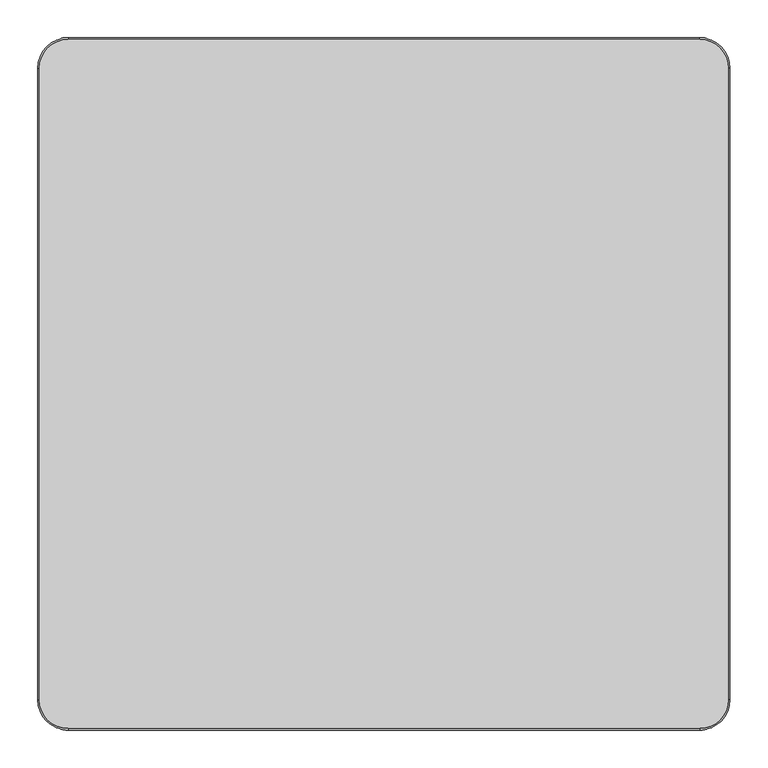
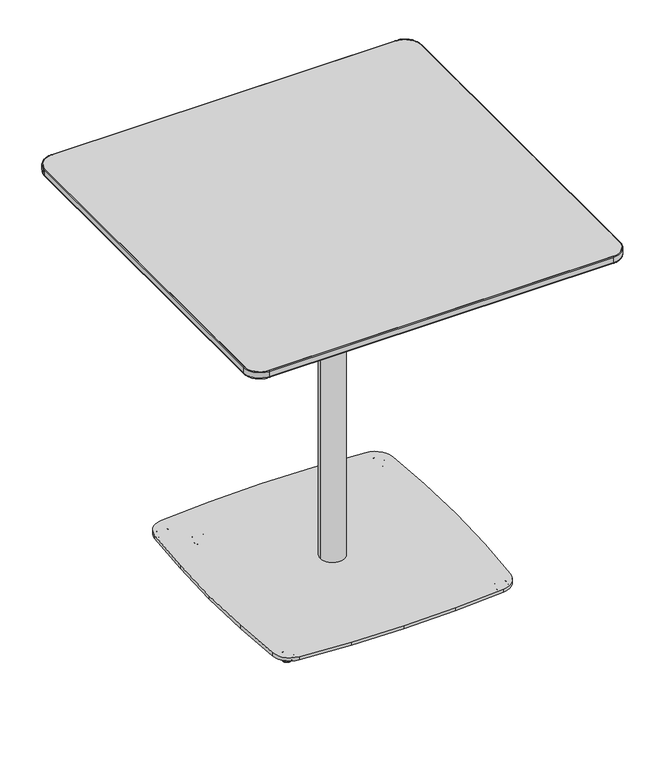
"""IFC4 building model written with IfcOpenShell, lengths in millimetres: furniture geometry, Coalesse_AM_Table_Occasional_Montara650Table_CafeHeight_Square : Counter Height - 36D x 36W."""

from ifc_helpers import new_model, si_unit, point, frame, frame_2d, origin, place, context, project, spatial, polyline, circle_curve, ellipse_curve, trimmed, segment, composite_curve, outline, extrude, source, transform, mapped, element, save
from ifc_brep_helpers import plane_surface, cylinder_surface, revolved_surface, spline_surface, advanced_brep


def furniture_87283390(model_context):
    return source(origin(), model_context, "Body", "SolidModel", [
        advanced_brep(
        [(252.3158533, 252.1363755, 0.0), (267.0011381, 266.8216603, 0.0), (259.6584957, 259.4790179, 0.0), (251.7693511, 251.5898733, 0.5718943), (267.5476403, 267.3681625, 0.5718943), (249.470252, 249.2907742, 11.2068005), (269.8467394, 269.6672616, 11.2068005), (249.8852728, 249.705795, 11.9999882), (269.4317186, 269.2522408, 11.9999882), (259.6584957, 259.4790179, 11.9999882)],
        [
            (0, 1, circle_curve(frame((259.6584957, 259.4790179, 0.0), z_axis=(0.0, 0.0, -1.0), x_axis=(0.7071067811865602, 0.7071067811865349, 0.0)), 10.3840645)),
            (1, 2),
            (2, 0),
            (1, 0, circle_curve(frame((259.6584957, 259.4790179, 0.0), z_axis=(0.0, 0.0, -1.0), x_axis=(0.7071067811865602, 0.7071067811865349, 0.0)), 10.3840645)),
            (3, 4, circle_curve(frame((259.6584957, 259.4790179, 0.5718943), z_axis=(0.0, 0.0, -1.0), x_axis=(0.7071067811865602, 0.7071067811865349, 0.0)), 11.1569353)),
            (4, 1, circle_curve(frame((267.0011381, 266.8216603, 0.8081846), z_axis=(-0.7071067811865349, 0.7071067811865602, 0.0), x_axis=(0.7071067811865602, 0.7071067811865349, 0.0)), 0.8081846)),
            (0, 3, circle_curve(frame((252.3158533, 252.1363755, 0.8081846), z_axis=(-0.7071067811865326, 0.7071067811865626, 0.0), x_axis=(-0.7071067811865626, -0.7071067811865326, 0.0)), 0.8081846)),
            (4, 3, circle_curve(frame((259.6584957, 259.4790179, 0.5718943), z_axis=(0.0, 0.0, -1.0), x_axis=(0.7071067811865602, 0.7071067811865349, 0.0)), 11.1569353)),
            (5, 6, circle_curve(frame((259.6584957, 259.4790179, 11.2068005), z_axis=(0.0, 0.0, -1.0), x_axis=(0.7071067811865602, 0.7071067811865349, 0.0)), 14.4083524)),
            (6, 4),
            (3, 5),
            (6, 5, circle_curve(frame((259.6584957, 259.4790179, 11.2068005), z_axis=(0.0, 0.0, -1.0), x_axis=(0.7071067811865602, 0.7071067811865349, 0.0)), 14.4083524)),
            (7, 8, circle_curve(frame((259.6584957, 259.4790179, 11.9999882), z_axis=(0.0, 0.0, -1.0), x_axis=(0.7071067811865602, 0.7071067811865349, 0.0)), 13.8214243)),
            (8, 6, circle_curve(frame((269.4317186, 269.2522408, 11.3862424), z_axis=(-0.7071067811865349, 0.7071067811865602, 0.0), x_axis=(0.7071067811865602, 0.7071067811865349, 0.0)), 0.6137458)),
            (5, 7, circle_curve(frame((249.8852728, 249.705795, 11.3862424), z_axis=(-0.7071067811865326, 0.7071067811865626, 0.0), x_axis=(-0.7071067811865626, -0.7071067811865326, 0.0)), 0.6137458)),
            (8, 7, circle_curve(frame((259.6584957, 259.4790179, 11.9999882), z_axis=(0.0, 0.0, -1.0), x_axis=(0.7071067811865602, 0.7071067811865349, 0.0)), 13.8214243)),
            (9, 8),
            (7, 9),
        ],
        [
            plane_surface(frame((259.6584957, 259.4790179, 0.0), z_axis=(0.0, 0.0, -1.0000000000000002), x_axis=(0.7071067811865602, 0.7071067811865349, 0.0))),
            revolved_surface(trimmed(ellipse_curve(frame((267.0011381, 266.8216603, 0.8081846), z_axis=(0.7071067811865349, -0.7071067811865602, 0.0), x_axis=(0.7071067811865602, 0.7071067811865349, 0.0)), 0.8081846, 0.8081846), [point((267.0011381, 266.8216603, 0.0))], [point((267.5476403, 267.3681625, 0.5718943))], True, "CARTESIAN"), (259.6584957, 259.4790179, 12.2086845), (0.0, 0.0, 1.0)),
            revolved_surface(polyline([(267.5476403, 267.3681625, 0.5718943), (269.8467394, 269.6672616, 11.2068005)]), (259.6584957, 259.4790179, 12.2086845), (0.0, 0.0, 1.0)),
            revolved_surface(trimmed(ellipse_curve(frame((269.4317186, 269.2522408, 11.3862424), z_axis=(0.7071067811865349, -0.7071067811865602, 0.0), x_axis=(0.7071067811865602, 0.7071067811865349, 0.0)), 0.6137458, 0.6137458), [point((269.8467394, 269.6672616, 11.2068005))], [point((269.4317186, 269.2522408, 11.9999882))], True, "CARTESIAN"), (259.6584957, 259.4790179, 12.2086845), (0.0, 0.0, 1.0)),
            plane_surface(frame((259.6584957, 259.4790179, 11.9999882), z_axis=(0.0, 0.0, 1.0000000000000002), x_axis=(0.7071067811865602, 0.7071067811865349, 0.0))),
        ],
        [
            (0, [[1, 2, 3]]),
            (0, [[4, -3, -2]]),
            (1, [[5, 6, -1, 7]]),
            (1, [[8, -7, -4, -6]]),
            (2, [[9, 10, -5, 11]]),
            (2, [[12, -11, -8, -10]]),
            (3, [[13, 14, -9, 15]]),
            (3, [[16, -15, -12, -14]]),
            (4, [[17, -13, 18]]),
            (4, [[-18, -16, -17]]),
        ],
    ),
        advanced_brep(
        [(259.8015382, -259.9111532, 0.0), (267.1441807, -267.2537956, 0.0), (252.4588958, -252.5685107, 0.0), (267.6906828, -267.8002977, 0.5718943), (251.9123937, -252.0220086, 0.5718943), (269.9897819, -270.0993968, 11.2068005), (249.6132946, -249.7229095, 11.2068005), (269.5747611, -269.684376, 11.9999882), (250.0283154, -250.1379303, 11.9999882), (259.8015382, -259.9111532, 11.9999882)],
        [
            (0, 1),
            (1, 2, circle_curve(frame((259.8015382, -259.9111532, 0.0), z_axis=(0.0, 0.0, -1.0), x_axis=(0.7071067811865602, -0.7071067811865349, 0.0)), 10.3840645)),
            (2, 0),
            (2, 1, circle_curve(frame((259.8015382, -259.9111532, 0.0), z_axis=(0.0, 0.0, -1.0), x_axis=(0.7071067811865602, -0.7071067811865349, 0.0)), 10.3840645)),
            (1, 3, circle_curve(frame((267.1441807, -267.2537956, 0.8081846), z_axis=(-0.7071067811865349, -0.7071067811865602, 0.0), x_axis=(0.7071067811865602, -0.7071067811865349, 0.0)), 0.8081846)),
            (3, 4, circle_curve(frame((259.8015382, -259.9111532, 0.5718943), z_axis=(0.0, 0.0, -1.0), x_axis=(0.7071067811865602, -0.7071067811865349, 0.0)), 11.1569353)),
            (4, 2, circle_curve(frame((252.4588958, -252.5685107, 0.8081846), z_axis=(-0.7071067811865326, -0.7071067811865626, 0.0), x_axis=(-0.7071067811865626, 0.7071067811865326, 0.0)), 0.8081846)),
            (4, 3, circle_curve(frame((259.8015382, -259.9111532, 0.5718943), z_axis=(0.0, 0.0, -1.0), x_axis=(0.7071067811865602, -0.7071067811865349, 0.0)), 11.1569353)),
            (3, 5),
            (5, 6, circle_curve(frame((259.8015382, -259.9111532, 11.2068005), z_axis=(0.0, 0.0, -1.0), x_axis=(0.7071067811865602, -0.7071067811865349, 0.0)), 14.4083524)),
            (6, 4),
            (6, 5, circle_curve(frame((259.8015382, -259.9111532, 11.2068005), z_axis=(0.0, 0.0, -1.0), x_axis=(0.7071067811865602, -0.7071067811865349, 0.0)), 14.4083524)),
            (5, 7, circle_curve(frame((269.5747611, -269.684376, 11.3862424), z_axis=(-0.7071067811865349, -0.7071067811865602, 0.0), x_axis=(0.7071067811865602, -0.7071067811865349, 0.0)), 0.6137458)),
            (7, 8, circle_curve(frame((259.8015382, -259.9111532, 11.9999882), z_axis=(0.0, 0.0, -1.0), x_axis=(0.7071067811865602, -0.7071067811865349, 0.0)), 13.8214243)),
            (8, 6, circle_curve(frame((250.0283154, -250.1379303, 11.3862424), z_axis=(-0.7071067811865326, -0.7071067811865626, 0.0), x_axis=(-0.7071067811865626, 0.7071067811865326, 0.0)), 0.6137458)),
            (8, 7, circle_curve(frame((259.8015382, -259.9111532, 11.9999882), z_axis=(0.0, 0.0, -1.0), x_axis=(0.7071067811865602, -0.7071067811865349, 0.0)), 13.8214243)),
            (7, 9),
            (9, 8),
        ],
        [
            plane_surface(frame((259.8015382, -259.9111532, 0.0), z_axis=(0.0, 0.0, -1.0000000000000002), x_axis=(0.7071067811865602, -0.7071067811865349, 0.0))),
            revolved_surface(trimmed(ellipse_curve(frame((267.1441807, -267.2537956, 0.8081846), z_axis=(0.7071067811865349, 0.7071067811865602, 0.0), x_axis=(0.7071067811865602, -0.7071067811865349, 0.0)), 0.8081846, 0.8081846), [point((267.6906828, -267.8002977, 0.5718943))], [point((267.1441807, -267.2537956, 0.0))], True, "CARTESIAN"), (259.8015382, -259.9111532, 12.2086845), (0.0, 0.0, -1.0)),
            revolved_surface(polyline([(269.9897819, -270.0993968, 11.2068005), (267.6906828, -267.8002977, 0.5718943)]), (259.8015382, -259.9111532, 12.2086845), (0.0, 0.0, -1.0)),
            revolved_surface(trimmed(ellipse_curve(frame((269.5747611, -269.684376, 11.3862424), z_axis=(0.7071067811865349, 0.7071067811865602, 0.0), x_axis=(0.7071067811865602, -0.7071067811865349, 0.0)), 0.6137458, 0.6137458), [point((269.5747611, -269.684376, 11.9999882))], [point((269.9897819, -270.0993968, 11.2068005))], True, "CARTESIAN"), (259.8015382, -259.9111532, 12.2086845), (0.0, 0.0, -1.0)),
            plane_surface(frame((259.8015382, -259.9111532, 11.9999882), z_axis=(0.0, 0.0, 1.0000000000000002), x_axis=(0.7071067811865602, -0.7071067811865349, 0.0))),
        ],
        [
            (0, [[1, 2, 3]]),
            (0, [[-3, 4, -1]]),
            (1, [[-2, 5, 6, 7]]),
            (1, [[-4, -7, 8, -5]]),
            (2, [[-6, 9, 10, 11]]),
            (2, [[-8, -11, 12, -9]]),
            (3, [[-10, 13, 14, 15]]),
            (3, [[-12, -15, 16, -13]]),
            (4, [[-14, 17, 18]]),
            (4, [[-16, -18, -17]]),
        ],
    ),
        extrude(outline(composite_curve([segment(trimmed(circle_curve(frame_2d((-243.9942116, 243.996709)), 44.45), [point((-288.3392595, 247.0494508))], [point((-247.0469534, 288.3417568))], False, "CARTESIAN"), True, "CONTINUOUS"), segment(polyline([(-247.0469534, 288.3417568), (-126.1187996, 296.6665291), (-0.0009163, 300.0012093), (126.116967, 296.6665291), (247.0474572, 288.341596)]), True, "CONTINUOUS"), segment(trimmed(circle_curve(frame_2d((243.9947155, 243.9965482)), 44.45), [point((247.0474572, 288.341596))], [point((288.3397633, 247.0492899))], False, "CARTESIAN"), True, "CONTINUOUS"), segment(polyline([(288.3397633, 247.0492899), (296.6646964, 126.1187996), (299.9993766, 0.0009163), (296.6646964, -126.116967), (288.3399178, -247.0452123)]), True, "CONTINUOUS"), segment(trimmed(circle_curve(frame_2d((243.99487, -243.9924705)), 44.45), [point((288.3399178, -247.0452123))], [point((247.0484272, -288.3374622))], False, "CARTESIAN"), True, "CONTINUOUS"), segment(polyline([(247.0484272, -288.3374622), (126.116967, -296.6646964), (-0.0009163, -299.9993766), (-126.1187996, -296.6646964), (-247.0479234, -288.3376231)]), True, "CONTINUOUS"), segment(trimmed(circle_curve(frame_2d((-243.9943662, -243.9926314)), 44.45), [point((-247.0479234, -288.3376231))], [point((-288.339414, -247.0453732))], False, "CARTESIAN"), True, "CONTINUOUS"), segment(polyline([(-288.339414, -247.0453732), (-296.6642037, -126.116967), (-299.9988839, 0.0009163), (-296.6642037, 126.1187996), (-288.3392595, 247.0494508)]), True, "CONTINUOUS")], self_intersect=False)), frame((0.0, 0.0, 11.9999882), z_axis=(0.0, 0.0, 1.0), x_axis=(1.0, 0.0, 0.0)), (0.0, 0.0, 1.0), 8.0000083),
        advanced_brep(
        [(-259.8122576, 259.6204684, 0.0), (-267.1549, 266.9631108, 0.0), (-252.4696151, 252.277826, 0.0), (-267.7014021, 267.509613, 0.5718943), (-251.923113, 251.7313238, 0.5718943), (-270.0005012, 269.8087121, 11.2068005), (-249.6240139, 249.4322247, 11.2068005), (-269.5854804, 269.3936913, 11.9999882), (-250.0390347, 249.8472455, 11.9999882), (-259.8122576, 259.6204684, 11.9999882)],
        [
            (0, 1),
            (1, 2, circle_curve(frame((-259.8122576, 259.6204684, 0.0), z_axis=(0.0, 0.0, -1.0), x_axis=(-0.7071067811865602, 0.7071067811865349, 0.0)), 10.3840645)),
            (2, 0),
            (2, 1, circle_curve(frame((-259.8122576, 259.6204684, 0.0), z_axis=(0.0, 0.0, -1.0), x_axis=(-0.7071067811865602, 0.7071067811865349, 0.0)), 10.3840645)),
            (1, 3, circle_curve(frame((-267.1549, 266.9631108, 0.8081846), z_axis=(0.7071067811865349, 0.7071067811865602, 0.0), x_axis=(-0.7071067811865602, 0.7071067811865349, 0.0)), 0.8081846)),
            (3, 4, circle_curve(frame((-259.8122576, 259.6204684, 0.5718943), z_axis=(0.0, 0.0, -1.0), x_axis=(-0.7071067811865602, 0.7071067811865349, 0.0)), 11.1569353)),
            (4, 2, circle_curve(frame((-252.4696151, 252.277826, 0.8081846), z_axis=(0.7071067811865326, 0.7071067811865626, 0.0), x_axis=(0.7071067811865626, -0.7071067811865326, 0.0)), 0.8081846)),
            (4, 3, circle_curve(frame((-259.8122576, 259.6204684, 0.5718943), z_axis=(0.0, 0.0, -1.0), x_axis=(-0.7071067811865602, 0.7071067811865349, 0.0)), 11.1569353)),
            (3, 5),
            (5, 6, circle_curve(frame((-259.8122576, 259.6204684, 11.2068005), z_axis=(0.0, 0.0, -1.0), x_axis=(-0.7071067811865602, 0.7071067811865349, 0.0)), 14.4083524)),
            (6, 4),
            (6, 5, circle_curve(frame((-259.8122576, 259.6204684, 11.2068005), z_axis=(0.0, 0.0, -1.0), x_axis=(-0.7071067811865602, 0.7071067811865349, 0.0)), 14.4083524)),
            (5, 7, circle_curve(frame((-269.5854804, 269.3936913, 11.3862424), z_axis=(0.7071067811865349, 0.7071067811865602, 0.0), x_axis=(-0.7071067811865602, 0.7071067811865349, 0.0)), 0.6137458)),
            (7, 8, circle_curve(frame((-259.8122576, 259.6204684, 11.9999882), z_axis=(0.0, 0.0, -1.0), x_axis=(-0.7071067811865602, 0.7071067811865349, 0.0)), 13.8214243)),
            (8, 6, circle_curve(frame((-250.0390347, 249.8472455, 11.3862424), z_axis=(0.7071067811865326, 0.7071067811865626, 0.0), x_axis=(0.7071067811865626, -0.7071067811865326, 0.0)), 0.6137458)),
            (8, 7, circle_curve(frame((-259.8122576, 259.6204684, 11.9999882), z_axis=(0.0, 0.0, -1.0), x_axis=(-0.7071067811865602, 0.7071067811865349, 0.0)), 13.8214243)),
            (7, 9),
            (9, 8),
        ],
        [
            plane_surface(frame((-259.8122576, 259.6204684, 0.0), z_axis=(0.0, 0.0, -1.0000000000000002), x_axis=(-0.7071067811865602, 0.7071067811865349, 0.0))),
            revolved_surface(trimmed(ellipse_curve(frame((-267.1549, 266.9631108, 0.8081846), z_axis=(-0.7071067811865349, -0.7071067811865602, 0.0), x_axis=(-0.7071067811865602, 0.7071067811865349, 0.0)), 0.8081846, 0.8081846), [point((-267.7014021, 267.509613, 0.5718943))], [point((-267.1549, 266.9631108, 0.0))], True, "CARTESIAN"), (-259.8122576, 259.6204684, 12.2086845), (0.0, 0.0, -1.0)),
            revolved_surface(polyline([(-270.0005012, 269.8087121, 11.2068005), (-267.7014021, 267.509613, 0.5718943)]), (-259.8122576, 259.6204684, 12.2086845), (0.0, 0.0, -1.0)),
            revolved_surface(trimmed(ellipse_curve(frame((-269.5854804, 269.3936913, 11.3862424), z_axis=(-0.7071067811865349, -0.7071067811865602, 0.0), x_axis=(-0.7071067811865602, 0.7071067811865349, 0.0)), 0.6137458, 0.6137458), [point((-269.5854804, 269.3936913, 11.9999882))], [point((-270.0005012, 269.8087121, 11.2068005))], True, "CARTESIAN"), (-259.8122576, 259.6204684, 12.2086845), (0.0, 0.0, -1.0)),
            plane_surface(frame((-259.8122576, 259.6204684, 11.9999882), z_axis=(0.0, 0.0, 1.0000000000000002), x_axis=(-0.7071067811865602, 0.7071067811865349, 0.0))),
        ],
        [
            (0, [[1, 2, 3]]),
            (0, [[-3, 4, -1]]),
            (1, [[-2, 5, 6, 7]]),
            (1, [[-4, -7, 8, -5]]),
            (2, [[-6, 9, 10, 11]]),
            (2, [[-8, -11, 12, -9]]),
            (3, [[-10, 13, 14, 15]]),
            (3, [[-12, -15, 16, -13]]),
            (4, [[-14, 17, 18]]),
            (4, [[-16, -18, -17]]),
        ],
    ),
        advanced_brep(
        [(-252.8175248, -252.4969322, 0.0), (-267.5028096, -267.182217, 0.0), (-260.1601672, -259.8395746, 0.0), (-252.2710226, -251.95043, 0.5718943), (-268.0493118, -267.7287192, 0.5718943), (-249.9719235, -249.6513309, 11.2068005), (-270.3484109, -270.0278183, 11.2068005), (-250.3869443, -250.0663517, 11.9999882), (-269.9333901, -269.6127975, 11.9999882), (-260.1601672, -259.8395746, 11.9999882)],
        [
            (0, 1, circle_curve(frame((-260.1601672, -259.8395746, 0.0), z_axis=(0.0, 0.0, -1.0), x_axis=(-0.7071067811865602, -0.7071067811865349, 0.0)), 10.3840645)),
            (1, 2),
            (2, 0),
            (1, 0, circle_curve(frame((-260.1601672, -259.8395746, 0.0), z_axis=(0.0, 0.0, -1.0), x_axis=(-0.7071067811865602, -0.7071067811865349, 0.0)), 10.3840645)),
            (3, 4, circle_curve(frame((-260.1601672, -259.8395746, 0.5718943), z_axis=(0.0, 0.0, -1.0), x_axis=(-0.7071067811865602, -0.7071067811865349, 0.0)), 11.1569353)),
            (4, 1, circle_curve(frame((-267.5028096, -267.182217, 0.8081846), z_axis=(0.7071067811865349, -0.7071067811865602, 0.0), x_axis=(-0.7071067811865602, -0.7071067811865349, 0.0)), 0.8081846)),
            (0, 3, circle_curve(frame((-252.8175248, -252.4969322, 0.8081846), z_axis=(0.7071067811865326, -0.7071067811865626, 0.0), x_axis=(0.7071067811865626, 0.7071067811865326, 0.0)), 0.8081846)),
            (4, 3, circle_curve(frame((-260.1601672, -259.8395746, 0.5718943), z_axis=(0.0, 0.0, -1.0), x_axis=(-0.7071067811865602, -0.7071067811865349, 0.0)), 11.1569353)),
            (5, 6, circle_curve(frame((-260.1601672, -259.8395746, 11.2068005), z_axis=(0.0, 0.0, -1.0), x_axis=(-0.7071067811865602, -0.7071067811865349, 0.0)), 14.4083524)),
            (6, 4),
            (3, 5),
            (6, 5, circle_curve(frame((-260.1601672, -259.8395746, 11.2068005), z_axis=(0.0, 0.0, -1.0), x_axis=(-0.7071067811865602, -0.7071067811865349, 0.0)), 14.4083524)),
            (7, 8, circle_curve(frame((-260.1601672, -259.8395746, 11.9999882), z_axis=(0.0, 0.0, -1.0), x_axis=(-0.7071067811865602, -0.7071067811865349, 0.0)), 13.8214243)),
            (8, 6, circle_curve(frame((-269.9333901, -269.6127975, 11.3862424), z_axis=(0.7071067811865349, -0.7071067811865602, 0.0), x_axis=(-0.7071067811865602, -0.7071067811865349, 0.0)), 0.6137458)),
            (5, 7, circle_curve(frame((-250.3869443, -250.0663517, 11.3862424), z_axis=(0.7071067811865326, -0.7071067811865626, 0.0), x_axis=(0.7071067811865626, 0.7071067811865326, 0.0)), 0.6137458)),
            (8, 7, circle_curve(frame((-260.1601672, -259.8395746, 11.9999882), z_axis=(0.0, 0.0, -1.0), x_axis=(-0.7071067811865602, -0.7071067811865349, 0.0)), 13.8214243)),
            (9, 8),
            (7, 9),
        ],
        [
            plane_surface(frame((-260.1601672, -259.8395746, 0.0), z_axis=(0.0, 0.0, -1.0000000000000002), x_axis=(-0.7071067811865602, -0.7071067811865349, 0.0))),
            revolved_surface(trimmed(ellipse_curve(frame((-267.5028096, -267.182217, 0.8081846), z_axis=(-0.7071067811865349, 0.7071067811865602, 0.0), x_axis=(-0.7071067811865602, -0.7071067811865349, 0.0)), 0.8081846, 0.8081846), [point((-267.5028096, -267.182217, 0.0))], [point((-268.0493118, -267.7287192, 0.5718943))], True, "CARTESIAN"), (-260.1601672, -259.8395746, 12.2086845), (0.0, 0.0, 1.0)),
            revolved_surface(polyline([(-268.0493118, -267.7287192, 0.5718943), (-270.3484109, -270.0278183, 11.2068005)]), (-260.1601672, -259.8395746, 12.2086845), (0.0, 0.0, 1.0)),
            revolved_surface(trimmed(ellipse_curve(frame((-269.9333901, -269.6127975, 11.3862424), z_axis=(-0.7071067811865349, 0.7071067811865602, 0.0), x_axis=(-0.7071067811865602, -0.7071067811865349, 0.0)), 0.6137458, 0.6137458), [point((-270.3484109, -270.0278183, 11.2068005))], [point((-269.9333901, -269.6127975, 11.9999882))], True, "CARTESIAN"), (-260.1601672, -259.8395746, 12.2086845), (0.0, 0.0, 1.0)),
            plane_surface(frame((-260.1601672, -259.8395746, 11.9999882), z_axis=(0.0, 0.0, 1.0000000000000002), x_axis=(-0.7071067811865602, -0.7071067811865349, 0.0))),
        ],
        [
            (0, [[1, 2, 3]]),
            (0, [[4, -3, -2]]),
            (1, [[5, 6, -1, 7]]),
            (1, [[8, -7, -4, -6]]),
            (2, [[9, 10, -5, 11]]),
            (2, [[12, -11, -8, -10]]),
            (3, [[13, 14, -9, 15]]),
            (3, [[16, -15, -12, -14]]),
            (4, [[17, -13, 18]]),
            (4, [[-18, -16, -17]]),
        ],
    ),
        advanced_brep(
        [(-204.8873489, 205.5044028, 0.0), (-212.2299913, 212.8470453, 0.0), (-197.5447065, 198.1617604, 0.0), (-212.7764935, 213.3935474, 0.5718943), (-196.9982043, 197.6152583, 0.5718943), (-215.0755926, 215.6926465, 11.2068005), (-194.6991052, 195.3161592, 11.2068005), (-214.6605718, 215.2776257, 11.9999882), (-195.114126, 195.73118, 11.9999882), (-204.8873489, 205.5044028, 11.9999882)],
        [
            (0, 1),
            (1, 2, circle_curve(frame((-204.8873489, 205.5044028, 0.0), z_axis=(0.0, 0.0, -1.0), x_axis=(-0.7071067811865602, 0.7071067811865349, 0.0)), 10.3840645)),
            (2, 0),
            (2, 1, circle_curve(frame((-204.8873489, 205.5044028, 0.0), z_axis=(0.0, 0.0, -1.0), x_axis=(-0.7071067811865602, 0.7071067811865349, 0.0)), 10.3840645)),
            (1, 3, circle_curve(frame((-212.2299913, 212.8470453, 0.8081846), z_axis=(0.7071067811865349, 0.7071067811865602, 0.0), x_axis=(-0.7071067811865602, 0.7071067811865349, 0.0)), 0.8081846)),
            (3, 4, circle_curve(frame((-204.8873489, 205.5044028, 0.5718943), z_axis=(0.0, 0.0, -1.0), x_axis=(-0.7071067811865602, 0.7071067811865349, 0.0)), 11.1569353)),
            (4, 2, circle_curve(frame((-197.5447065, 198.1617604, 0.8081846), z_axis=(0.7071067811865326, 0.7071067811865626, 0.0), x_axis=(0.7071067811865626, -0.7071067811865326, 0.0)), 0.8081846)),
            (4, 3, circle_curve(frame((-204.8873489, 205.5044028, 0.5718943), z_axis=(0.0, 0.0, -1.0), x_axis=(-0.7071067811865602, 0.7071067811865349, 0.0)), 11.1569353)),
            (3, 5),
            (5, 6, circle_curve(frame((-204.8873489, 205.5044028, 11.2068005), z_axis=(0.0, 0.0, -1.0), x_axis=(-0.7071067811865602, 0.7071067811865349, 0.0)), 14.4083524)),
            (6, 4),
            (6, 5, circle_curve(frame((-204.8873489, 205.5044028, 11.2068005), z_axis=(0.0, 0.0, -1.0), x_axis=(-0.7071067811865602, 0.7071067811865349, 0.0)), 14.4083524)),
            (5, 7, circle_curve(frame((-214.6605718, 215.2776257, 11.3862424), z_axis=(0.7071067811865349, 0.7071067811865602, 0.0), x_axis=(-0.7071067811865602, 0.7071067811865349, 0.0)), 0.6137458)),
            (7, 8, circle_curve(frame((-204.8873489, 205.5044028, 11.9999882), z_axis=(0.0, 0.0, -1.0), x_axis=(-0.7071067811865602, 0.7071067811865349, 0.0)), 13.8214243)),
            (8, 6, circle_curve(frame((-195.114126, 195.73118, 11.3862424), z_axis=(0.7071067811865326, 0.7071067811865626, 0.0), x_axis=(0.7071067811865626, -0.7071067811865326, 0.0)), 0.6137458)),
            (8, 7, circle_curve(frame((-204.8873489, 205.5044028, 11.9999882), z_axis=(0.0, 0.0, -1.0), x_axis=(-0.7071067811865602, 0.7071067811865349, 0.0)), 13.8214243)),
            (7, 9),
            (9, 8),
        ],
        [
            plane_surface(frame((-204.8873489, 205.5044028, 0.0), z_axis=(0.0, 0.0, -1.0000000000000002), x_axis=(-0.7071067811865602, 0.7071067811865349, 0.0))),
            revolved_surface(trimmed(ellipse_curve(frame((-212.2299913, 212.8470453, 0.8081846), z_axis=(-0.7071067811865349, -0.7071067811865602, 0.0), x_axis=(-0.7071067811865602, 0.7071067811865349, 0.0)), 0.8081846, 0.8081846), [point((-212.7764935, 213.3935474, 0.5718943))], [point((-212.2299913, 212.8470453, 0.0))], True, "CARTESIAN"), (-204.8873489, 205.5044028, 12.2086845), (0.0, 0.0, -1.0)),
            revolved_surface(polyline([(-215.0755926, 215.6926465, 11.2068005), (-212.7764935, 213.3935474, 0.5718943)]), (-204.8873489, 205.5044028, 12.2086845), (0.0, 0.0, -1.0)),
            revolved_surface(trimmed(ellipse_curve(frame((-214.6605718, 215.2776257, 11.3862424), z_axis=(-0.7071067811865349, -0.7071067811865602, 0.0), x_axis=(-0.7071067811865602, 0.7071067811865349, 0.0)), 0.6137458, 0.6137458), [point((-214.6605718, 215.2776257, 11.9999882))], [point((-215.0755926, 215.6926465, 11.2068005))], True, "CARTESIAN"), (-204.8873489, 205.5044028, 12.2086845), (0.0, 0.0, -1.0)),
            plane_surface(frame((-204.8873489, 205.5044028, 11.9999882), z_axis=(0.0, 0.0, 1.0000000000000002), x_axis=(-0.7071067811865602, 0.7071067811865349, 0.0))),
        ],
        [
            (0, [[1, 2, 3]]),
            (0, [[-3, 4, -1]]),
            (1, [[-2, 5, 6, 7]]),
            (1, [[-4, -7, 8, -5]]),
            (2, [[-6, 9, 10, 11]]),
            (2, [[-8, -11, 12, -9]]),
            (3, [[-10, 13, 14, 15]]),
            (3, [[-12, -15, 16, -13]]),
            (4, [[-14, 17, 18]]),
            (4, [[-16, -18, -17]]),
        ],
    ),
        advanced_brep(
        [(392.2626362, 392.2635082, 884.430027), (392.2626362, -392.2635082, 884.430027), (-392.2626362, -392.2635082, 884.430027), (-392.2626362, 392.2635082, 884.430027), (416.988625, 455.168, 896.695891), (-416.988625, 455.168, 896.695891), (-455.088625, 417.068, 896.695891), (-455.088625, -417.068, 896.695891), (-416.988625, -455.168, 896.695891), (416.988625, -455.168, 896.695891), (455.088625, -417.068, 896.695891), (455.088625, 417.068, 896.695891)],
        [
            (0, 1),
            (1, 2),
            (2, 3),
            (3, 0),
            (4, 5),
            (5, 6, circle_curve(frame((-416.988625, 417.068, 896.695891), z_axis=(0.0, 0.0, 1.0), x_axis=(1.0, 0.0, 0.0)), 38.1)),
            (6, 7),
            (7, 8, circle_curve(frame((-416.988625, -417.068, 896.695891), z_axis=(0.0, 0.0, 1.0), x_axis=(1.0, 0.0, 0.0)), 38.1)),
            (8, 9),
            (9, 10, circle_curve(frame((416.988625, -417.068, 896.695891), z_axis=(0.0, 0.0, 1.0), x_axis=(1.0, 0.0, 0.0)), 38.1)),
            (10, 11),
            (11, 4, circle_curve(frame((416.988625, 417.068, 896.695891), z_axis=(0.0, 0.0, 1.0), x_axis=(1.0, 0.0, 0.0)), 38.1)),
            (11, 0),
            (0, 4),
            (10, 1),
            (9, 1),
            (8, 2),
            (7, 2),
            (6, 3),
            (5, 3),
        ],
        [
            plane_surface(frame((0.0, 0.0, 884.430027), z_axis=(0.0, 0.0, -1.0), x_axis=(-1.0, 0.0, 0.0))),
            plane_surface(frame((0.0, 0.0, 896.695891), z_axis=(0.0, 0.0, 1.0), x_axis=(-1.0, 0.0, 0.0))),
            spline_surface(2, 1, [[(416.988625, 455.168, 896.695891), (392.2626362, 392.2635082, 884.430027)], [(455.08862500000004, 455.16800000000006, 896.695891), (392.2626362, 392.2635082, 884.430027)], [(455.088625, 417.068, 896.695891), (392.2626362, 392.2635082, 884.430027)]], [3, 3], [2, 2], [0.0, 1.0], [0.0, 1.0], weights=[[1.0, 1.0], [0.707106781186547, 0.707106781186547], [1.0, 1.0]]),
            plane_surface(frame((455.088625, 0.0, 896.695891), z_axis=(0.19161772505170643, 0.0, -0.9814696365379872), x_axis=(0.0, -1.0, 0.0))),
            spline_surface(2, 1, [[(455.088625, -417.068, 896.695891), (392.2626362, -392.2635082, 884.430027)], [(455.0886249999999, -455.16799999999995, 896.695891), (392.2626362, -392.2635082, 884.430027)], [(416.988625, -455.168, 896.695891), (392.2626362, -392.2635082, 884.430027)]], [3, 3], [2, 2], [0.0, 1.0], [0.0, 1.0], weights=[[1.0, 1.0], [0.7071067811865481, 0.7071067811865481], [1.0, 1.0]]),
            plane_surface(frame((0.0, -455.168, 896.695891), z_axis=(0.0, -0.19138735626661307, -0.9815145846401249), x_axis=(-1.0, 0.0, 0.0))),
            spline_surface(2, 1, [[(-416.988625, -455.168, 896.695891), (-392.2626362, -392.2635082, 884.430027)], [(-455.08862500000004, -455.16800000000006, 896.695891), (-392.2626362, -392.2635082, 884.430027)], [(-455.088625, -417.068, 896.695891), (-392.2626362, -392.2635082, 884.430027)]], [3, 3], [2, 2], [0.0, 1.0], [0.0, 1.0], weights=[[1.0, 1.0], [0.707106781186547, 0.707106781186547], [1.0, 1.0]]),
            plane_surface(frame((-455.088625, 0.0, 896.695891), z_axis=(-0.19161772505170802, 0.0, -0.9814696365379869), x_axis=(0.0, 1.0, 0.0))),
            spline_surface(2, 1, [[(-455.088625, 417.068, 896.695891), (-392.2626362, 392.2635082, 884.430027)], [(-455.0886249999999, 455.16799999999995, 896.695891), (-392.2626362, 392.2635082, 884.430027)], [(-416.988625, 455.168, 896.695891), (-392.2626362, 392.2635082, 884.430027)]], [3, 3], [2, 2], [0.0, 1.0], [0.0, 1.0], weights=[[1.0, 1.0], [0.7071067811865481, 0.7071067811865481], [1.0, 1.0]]),
            plane_surface(frame((0.0, 455.168, 896.695891), z_axis=(0.0, 0.19138735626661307, -0.9815145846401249), x_axis=(1.0, 0.0, 0.0))),
        ],
        [
            (0, [[1, 2, 3, 4]]),
            (1, [[5, 6, 7, 8, 9, 10, 11, 12]]),
            (2, [[-12, 13, 14]]),
            (3, [[-11, 15, -1, -13]]),
            (4, [[-10, 16, -15]]),
            (5, [[-9, 17, -2, -16]]),
            (6, [[-8, 18, -17]]),
            (7, [[-7, 19, -3, -18]]),
            (8, [[-6, 20, -19]]),
            (9, [[-5, -14, -4, -20]]),
        ],
    ),
        extrude(outline(composite_curve([segment(trimmed(circle_curve(frame_2d((416.988625, 417.068)), 38.1), [point((416.988625, 455.168))], [point((455.088625, 417.068))], False, "CARTESIAN"), True, "CONTINUOUS"), segment(polyline([(455.088625, 417.068), (455.088625, -417.068)]), True, "CONTINUOUS"), segment(trimmed(circle_curve(frame_2d((416.988625, -417.068)), 38.1), [point((455.088625, -417.068))], [point((416.988625, -455.168))], False, "CARTESIAN"), True, "CONTINUOUS"), segment(polyline([(416.988625, -455.168), (-416.988625, -455.168)]), True, "CONTINUOUS"), segment(trimmed(circle_curve(frame_2d((-416.988625, -417.068)), 38.1), [point((-416.988625, -455.168))], [point((-455.088625, -417.068))], False, "CARTESIAN"), True, "CONTINUOUS"), segment(polyline([(-455.088625, -417.068), (-455.088625, 417.068)]), True, "CONTINUOUS"), segment(trimmed(circle_curve(frame_2d((-416.988625, 417.068)), 38.1), [point((-455.088625, 417.068))], [point((-416.988625, 455.168))], False, "CARTESIAN"), True, "CONTINUOUS"), segment(polyline([(-416.988625, 455.168), (416.988625, 455.168)]), True, "CONTINUOUS")], self_intersect=False)), frame((0.0, 0.0, 896.695891), z_axis=(0.0, 0.0, 1.0), x_axis=(1.0, 0.0, 0.0)), (0.0, 0.0, 1.0), 17.704109),
        advanced_brep(
        [(-457.1644915, 417.068, 898.6278467), (-416.988625, 457.2438665, 898.6278467), (-416.988625, 455.168, 896.695891), (-455.088625, 417.068, 896.695891), (-457.1644915, 417.068, 912.3999283), (-416.988625, 457.2438665, 912.3999283), (-455.088625, 417.068, 914.4), (-416.988625, 455.168, 914.4), (-455.088625, -417.068, 896.695891), (-457.1644915, -417.068, 898.6278467), (-457.1644915, -417.068, 912.3999283), (-455.088625, -417.068, 914.4), (-416.988625, -457.2438665, 898.6278467), (-416.988625, -455.168, 896.695891), (-416.988625, -457.2438665, 912.3999283), (-416.988625, -455.168, 914.4), (416.988625, -455.168, 896.695891), (416.988625, -457.2438665, 898.6278467), (416.988625, -457.2438665, 912.3999283), (416.988625, -455.168, 914.4), (457.1644915, -417.068, 898.6278467), (455.088625, -417.068, 896.695891), (457.1644915, -417.068, 912.3999283), (455.088625, -417.068, 914.4), (455.088625, 417.068, 896.695891), (457.1644915, 417.068, 898.6278467), (457.1644915, 417.068, 912.3999283), (455.088625, 417.068, 914.4), (416.988625, 457.2438665, 898.6278467), (416.988625, 455.168, 896.695891), (416.988625, 457.2438665, 912.3999283), (416.988625, 455.168, 914.4)],
        [
            (0, 1, circle_curve(frame((-416.988625, 417.068, 898.6278467), z_axis=(0.0, 0.0, -1.0), x_axis=(0.0, 1.0, 0.0)), 40.1758665)),
            (1, 2, circle_curve(frame((-416.988625, 455.3069224, 898.6278467), z_axis=(-1.0, 0.0, 0.0), x_axis=(0.0, -1.0, 0.0)), 1.9369441)),
            (2, 3, circle_curve(frame((-416.988625, 417.068, 896.695891), z_axis=(0.0, 0.0, 1.0), x_axis=(0.0, 1.0, 0.0)), 38.1)),
            (3, 0, circle_curve(frame((-455.2275474, 417.068, 898.6278467), z_axis=(0.0, 1.0, 0.0), x_axis=(1.0, 0.0, 0.0)), 1.9369441)),
            (4, 5, circle_curve(frame((-416.988625, 417.068, 912.3999283), z_axis=(0.0, 0.0, -1.0), x_axis=(0.0, 1.0, 0.0)), 40.1758665)),
            (5, 1),
            (0, 4),
            (6, 7, circle_curve(frame((-416.988625, 417.068, 914.4), z_axis=(0.0, 0.0, -1.0), x_axis=(0.0, 1.0, 0.0)), 38.1)),
            (7, 5, circle_curve(frame((-416.988625, 455.2424111, 912.3999283), z_axis=(-1.0, 0.0, 0.0), x_axis=(0.0, -1.0, 0.0)), 2.0014554)),
            (4, 6, circle_curve(frame((-455.1630361, 417.068, 912.3999283), z_axis=(0.0, 1.0, 0.0), x_axis=(1.0, 0.0, 0.0)), 2.0014554)),
            (2, 7),
            (6, 3),
            (3, 8),
            (8, 9, circle_curve(frame((-455.2275474, -417.068, 898.6278467), z_axis=(0.0, 1.0, 0.0), x_axis=(1.0, 0.0, 0.0)), 1.9369441)),
            (9, 0),
            (9, 10),
            (10, 4),
            (10, 11, circle_curve(frame((-455.1630361, -417.068, 912.3999283), z_axis=(0.0, 1.0, 0.0), x_axis=(1.0, 0.0, 0.0)), 2.0014554)),
            (11, 6),
            (11, 8),
            (12, 9, circle_curve(frame((-416.988625, -417.068, 898.6278467), z_axis=(0.0, 0.0, -1.0), x_axis=(-1.0, 0.0, 0.0)), 40.1758665)),
            (8, 13, circle_curve(frame((-416.988625, -417.068, 896.695891), z_axis=(0.0, 0.0, 1.0), x_axis=(-1.0, 0.0, 0.0)), 38.1)),
            (13, 12, circle_curve(frame((-416.988625, -455.3069224, 898.6278467), z_axis=(-1.0, 0.0, 0.0), x_axis=(0.0, 1.0, 0.0)), 1.9369441)),
            (14, 10, circle_curve(frame((-416.988625, -417.068, 912.3999283), z_axis=(0.0, 0.0, -1.0), x_axis=(-1.0, 0.0, 0.0)), 40.1758665)),
            (12, 14),
            (15, 11, circle_curve(frame((-416.988625, -417.068, 914.4), z_axis=(0.0, 0.0, -1.0), x_axis=(-1.0, 0.0, 0.0)), 38.1)),
            (14, 15, circle_curve(frame((-416.988625, -455.2424111, 912.3999283), z_axis=(-1.0, 0.0, 0.0), x_axis=(0.0, 1.0, 0.0)), 2.0014554)),
            (15, 13),
            (13, 16),
            (16, 17, circle_curve(frame((416.988625, -455.3069224, 898.6278467), z_axis=(-1.0, 0.0, 0.0), x_axis=(0.0, 1.0, 0.0)), 1.9369441)),
            (17, 12),
            (17, 18),
            (18, 14),
            (18, 19, circle_curve(frame((416.988625, -455.2424111, 912.3999283), z_axis=(-1.0, 0.0, 0.0), x_axis=(0.0, 1.0, 0.0)), 2.0014554)),
            (19, 15),
            (19, 16),
            (20, 17, circle_curve(frame((416.988625, -417.068, 898.6278467), z_axis=(0.0, 0.0, -1.0), x_axis=(0.0, -1.0, 0.0)), 40.1758665)),
            (16, 21, circle_curve(frame((416.988625, -417.068, 896.695891), z_axis=(0.0, 0.0, 1.0), x_axis=(0.0, -1.0, 0.0)), 38.1)),
            (21, 20, circle_curve(frame((455.2275474, -417.068, 898.6278467), z_axis=(0.0, -1.0, 0.0), x_axis=(-1.0, 0.0, 0.0)), 1.9369441)),
            (22, 18, circle_curve(frame((416.988625, -417.068, 912.3999283), z_axis=(0.0, 0.0, -1.0), x_axis=(0.0, -1.0, 0.0)), 40.1758665)),
            (20, 22),
            (23, 19, circle_curve(frame((416.988625, -417.068, 914.4), z_axis=(0.0, 0.0, -1.0), x_axis=(0.0, -1.0, 0.0)), 38.1)),
            (22, 23, circle_curve(frame((455.1630361, -417.068, 912.3999283), z_axis=(0.0, -1.0, 0.0), x_axis=(-1.0, 0.0, 0.0)), 2.0014554)),
            (23, 21),
            (21, 24),
            (24, 25, circle_curve(frame((455.2275474, 417.068, 898.6278467), z_axis=(0.0, -1.0, 0.0), x_axis=(-1.0, 0.0, 0.0)), 1.9369441)),
            (25, 20),
            (25, 26),
            (26, 22),
            (26, 27, circle_curve(frame((455.1630361, 417.068, 912.3999283), z_axis=(0.0, -1.0, 0.0), x_axis=(-1.0, 0.0, 0.0)), 2.0014554)),
            (27, 23),
            (27, 24),
            (28, 25, circle_curve(frame((416.988625, 417.068, 898.6278467), z_axis=(0.0, 0.0, -1.0), x_axis=(1.0, 0.0, 0.0)), 40.1758665)),
            (24, 29, circle_curve(frame((416.988625, 417.068, 896.695891), z_axis=(0.0, 0.0, 1.0), x_axis=(1.0, 0.0, 0.0)), 38.1)),
            (29, 28, circle_curve(frame((416.988625, 455.3069224, 898.6278467), z_axis=(1.0, 0.0, 0.0), x_axis=(0.0, -1.0, 0.0)), 1.9369441)),
            (30, 26, circle_curve(frame((416.988625, 417.068, 912.3999283), z_axis=(0.0, 0.0, -1.0), x_axis=(1.0, 0.0, 0.0)), 40.1758665)),
            (28, 30),
            (31, 27, circle_curve(frame((416.988625, 417.068, 914.4), z_axis=(0.0, 0.0, -1.0), x_axis=(1.0, 0.0, 0.0)), 38.1)),
            (30, 31, circle_curve(frame((416.988625, 455.2424111, 912.3999283), z_axis=(1.0, 0.0, 0.0), x_axis=(0.0, -1.0, 0.0)), 2.0014554)),
            (31, 29),
            (29, 2),
            (1, 28),
            (5, 30),
            (7, 31),
        ],
        [
            revolved_surface(trimmed(ellipse_curve(frame((-416.988625, 455.3069224, 898.6278467), z_axis=(1.0, 0.0, 0.0), x_axis=(0.0, -1.0, 0.0)), 1.9369441, 1.9369441), [point((-416.988625, 455.168, 896.695891))], [point((-416.988625, 457.2438665, 898.6278467))], True, "CARTESIAN"), (-416.988625, 417.068, 0.0), (0.0, 0.0, 1.0)),
            cylinder_surface(frame((-416.988625, 417.068, 0.0), z_axis=(0.0, 0.0, 1.0), x_axis=(0.0, 1.0, 0.0)), 40.1758665),
            revolved_surface(trimmed(ellipse_curve(frame((-416.988625, 455.2424111, 912.3999283), z_axis=(1.0, 0.0, 0.0), x_axis=(0.0, -1.0, 0.0)), 2.0014554, 2.0014554), [point((-416.988625, 457.2438665, 912.3999283))], [point((-416.988625, 455.168, 914.4))], True, "CARTESIAN"), (-416.988625, 417.068, 0.0), (0.0, 0.0, 1.0)),
            revolved_surface(polyline([(-416.988625, 455.168, 914.4), (-416.988625, 455.168, 896.695891)]), (-416.988625, 417.068, 0.0), (0.0, 0.0, 1.0)),
            cylinder_surface(frame((-455.2275474, 417.068, 898.6278467), z_axis=(0.0, 1.0, 0.0), x_axis=(1.0, 0.0, 0.0)), 1.9369441),
            plane_surface(frame((-457.1644915, 417.068, 898.6278467), z_axis=(-1.0, 0.0, 0.0), x_axis=(0.0, -1.0, 0.0))),
            cylinder_surface(frame((-455.1630361, 417.068, 912.3999283), z_axis=(0.0, 1.0, 0.0), x_axis=(1.0, 0.0, 0.0)), 2.0014554),
            plane_surface(frame((-455.088625, 417.068, 914.4), z_axis=(1.0, 0.0, 0.0), x_axis=(0.0, -1.0, 0.0))),
            revolved_surface(trimmed(ellipse_curve(frame((-455.2275474, -417.068, 898.6278467), z_axis=(0.0, 1.0, 0.0), x_axis=(1.0, 0.0, 0.0)), 1.9369441, 1.9369441), [point((-455.088625, -417.068, 896.695891))], [point((-457.1644915, -417.068, 898.6278467))], True, "CARTESIAN"), (-416.988625, -417.068, 0.0), (0.0, 0.0, 1.0)),
            cylinder_surface(frame((-416.988625, -417.068, 0.0), z_axis=(0.0, 0.0, 1.0), x_axis=(-1.0, 0.0, 0.0)), 40.1758665),
            revolved_surface(trimmed(ellipse_curve(frame((-455.1630361, -417.068, 912.3999283), z_axis=(0.0, 1.0, 0.0), x_axis=(1.0, 0.0, 0.0)), 2.0014554, 2.0014554), [point((-457.1644915, -417.068, 912.3999283))], [point((-455.088625, -417.068, 914.4))], True, "CARTESIAN"), (-416.988625, -417.068, 0.0), (0.0, 0.0, 1.0)),
            revolved_surface(polyline([(-455.08862500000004, -417.068, 914.4), (-455.08862500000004, -417.068, 896.695891)]), (-416.988625, -417.068, 0.0), (0.0, 0.0, 1.0)),
            cylinder_surface(frame((-416.988625, -455.3069224, 898.6278467), z_axis=(-1.0, 0.0, 0.0), x_axis=(0.0, 1.0, 0.0)), 1.9369441),
            plane_surface(frame((-416.988625, -457.2438665, 898.6278467), z_axis=(0.0, -1.0, 0.0), x_axis=(1.0, 0.0, 0.0))),
            cylinder_surface(frame((-416.988625, -455.2424111, 912.3999283), z_axis=(-1.0, 0.0, 0.0), x_axis=(0.0, 1.0, 0.0)), 2.0014554),
            plane_surface(frame((-416.988625, -455.168, 914.4), z_axis=(0.0, 1.0, 0.0), x_axis=(1.0, 0.0, 0.0))),
            revolved_surface(trimmed(ellipse_curve(frame((416.988625, -455.3069224, 898.6278467), z_axis=(-1.0, 0.0, 0.0), x_axis=(0.0, 1.0, 0.0)), 1.9369441, 1.9369441), [point((416.988625, -455.168, 896.695891))], [point((416.988625, -457.2438665, 898.6278467))], True, "CARTESIAN"), (416.988625, -417.068, 0.0), (0.0, 0.0, 1.0)),
            cylinder_surface(frame((416.988625, -417.068, 0.0), z_axis=(0.0, 0.0, 1.0), x_axis=(0.0, -1.0, 0.0)), 40.1758665),
            revolved_surface(trimmed(ellipse_curve(frame((416.988625, -455.2424111, 912.3999283), z_axis=(-1.0, 0.0, 0.0), x_axis=(0.0, 1.0, 0.0)), 2.0014554, 2.0014554), [point((416.988625, -457.2438665, 912.3999283))], [point((416.988625, -455.168, 914.4))], True, "CARTESIAN"), (416.988625, -417.068, 0.0), (0.0, 0.0, 1.0)),
            revolved_surface(polyline([(416.988625, -455.168, 914.4), (416.988625, -455.168, 896.695891)]), (416.988625, -417.068, 0.0), (0.0, 0.0, 1.0)),
            cylinder_surface(frame((455.2275474, -417.068, 898.6278467), z_axis=(0.0, -1.0, 0.0), x_axis=(-1.0, 0.0, 0.0)), 1.9369441),
            plane_surface(frame((457.1644915, -417.068, 898.6278467), z_axis=(1.0, 0.0, 0.0), x_axis=(0.0, 1.0, 0.0))),
            cylinder_surface(frame((455.1630361, -417.068, 912.3999283), z_axis=(0.0, -1.0, 0.0), x_axis=(-1.0, 0.0, 0.0)), 2.0014554),
            plane_surface(frame((455.088625, -417.068, 914.4), z_axis=(-1.0, 0.0, 0.0), x_axis=(0.0, 1.0, 0.0))),
            revolved_surface(trimmed(ellipse_curve(frame((455.2275474, 417.068, 898.6278467), z_axis=(0.0, -1.0, 0.0), x_axis=(-1.0, 0.0, 0.0)), 1.9369441, 1.9369441), [point((455.088625, 417.068, 896.695891))], [point((457.1644915, 417.068, 898.6278467))], True, "CARTESIAN"), (416.988625, 417.068, 0.0), (0.0, 0.0, 1.0)),
            cylinder_surface(frame((416.988625, 417.068, 0.0), z_axis=(0.0, 0.0, 1.0), x_axis=(1.0, 0.0, 0.0)), 40.1758665),
            revolved_surface(trimmed(ellipse_curve(frame((455.1630361, 417.068, 912.3999283), z_axis=(0.0, -1.0, 0.0), x_axis=(-1.0, 0.0, 0.0)), 2.0014554, 2.0014554), [point((457.1644915, 417.068, 912.3999283))], [point((455.088625, 417.068, 914.4))], True, "CARTESIAN"), (416.988625, 417.068, 0.0), (0.0, 0.0, 1.0)),
            revolved_surface(polyline([(455.08862500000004, 417.068, 914.4), (455.08862500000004, 417.068, 896.695891)]), (416.988625, 417.068, 0.0), (0.0, 0.0, 1.0)),
            cylinder_surface(frame((416.988625, 455.3069224, 898.6278467), z_axis=(1.0, 0.0, 0.0), x_axis=(0.0, -1.0, 0.0)), 1.9369441),
            plane_surface(frame((416.988625, 457.2438665, 898.6278467), z_axis=(0.0, 1.0, 0.0), x_axis=(-1.0, 0.0, 0.0))),
            cylinder_surface(frame((416.988625, 455.2424111, 912.3999283), z_axis=(1.0, 0.0, 0.0), x_axis=(0.0, -1.0, 0.0)), 2.0014554),
            plane_surface(frame((416.988625, 455.168, 914.4), z_axis=(0.0, -1.0, 0.0), x_axis=(-1.0, 0.0, 0.0))),
        ],
        [
            (0, [[1, 2, 3, 4]]),
            (1, [[5, 6, -1, 7]]),
            (2, [[8, 9, -5, 10]]),
            (3, [[-3, 11, -8, 12]]),
            (4, [[-4, 13, 14, 15]]),
            (5, [[-7, -15, 16, 17]]),
            (6, [[-10, -17, 18, 19]]),
            (7, [[-12, -19, 20, -13]]),
            (8, [[21, -14, 22, 23]]),
            (9, [[24, -16, -21, 25]]),
            (10, [[26, -18, -24, 27]]),
            (11, [[-22, -20, -26, 28]]),
            (12, [[-23, 29, 30, 31]]),
            (13, [[-25, -31, 32, 33]]),
            (14, [[-27, -33, 34, 35]]),
            (15, [[-28, -35, 36, -29]]),
            (16, [[37, -30, 38, 39]]),
            (17, [[40, -32, -37, 41]]),
            (18, [[42, -34, -40, 43]]),
            (19, [[-38, -36, -42, 44]]),
            (20, [[-39, 45, 46, 47]]),
            (21, [[-41, -47, 48, 49]]),
            (22, [[-43, -49, 50, 51]]),
            (23, [[-44, -51, 52, -45]]),
            (24, [[53, -46, 54, 55]]),
            (25, [[56, -48, -53, 57]]),
            (26, [[58, -50, -56, 59]]),
            (27, [[-54, -52, -58, 60]]),
            (28, [[-55, 61, -2, 62]]),
            (29, [[-57, -62, -6, 63]]),
            (30, [[-59, -63, -9, 64]]),
            (31, [[-60, -64, -11, -61]]),
        ],
    ),
        advanced_brep(
        [(131.6004101, 0.0, 881.255027), (-131.6004101, 0.0, 881.255027), (-176.1626132, 0.0, 881.255027), (176.1626132, 0.0, 881.255027), (121.0488662, 0.0, 880.1460151), (-121.0488662, 0.0, 880.1460151), (48.7461809, 0.0, 865.4837029), (-48.7461809, 0.0, 865.4837029), (37.412985, 0.0, 865.4837029), (-37.412985, 0.0, 865.4837029), (29.5495828, 0.0, 19.9999965), (-29.5495828, 0.0, 19.9999965), (-29.5495828, 0.0, 877.2852036), (29.5495828, 0.0, 877.2852036), (0.0, 0.0, 19.9999965), (176.1626132, 0.0, 884.430027), (-176.1626132, 0.0, 884.430027), (0.0, 0.0, 884.430027), (33.3511087, 0.0, 866.9383874), (-33.3511087, 0.0, 866.9383874), (31.712334, 0.0, 877.2852036), (-31.712334, 0.0, 877.2852036)],
        [
            (0, 1, circle_curve(frame((0.0, 0.0, 881.255027), z_axis=(0.0, 0.0, 1.0), x_axis=(-1.0, 0.0, 0.0)), 131.6004101)),
            (1, 2),
            (2, 3, circle_curve(frame((0.0, 0.0, 881.255027), z_axis=(0.0, 0.0, -1.0), x_axis=(-1.0, 0.0, 0.0)), 176.1626132)),
            (3, 0),
            (1, 0, circle_curve(frame((0.0, 0.0, 881.255027), z_axis=(0.0, 0.0, 1.0), x_axis=(-1.0, 0.0, 0.0)), 131.6004101)),
            (3, 2, circle_curve(frame((0.0, 0.0, 881.255027), z_axis=(0.0, 0.0, -1.0), x_axis=(-1.0, 0.0, 0.0)), 176.1626132)),
            (4, 5, circle_curve(frame((0.0, 0.0, 880.1460151), z_axis=(0.0, 0.0, 1.0), x_axis=(-1.0, 0.0, 0.0)), 121.0488662)),
            (5, 1),
            (0, 4),
            (5, 4, circle_curve(frame((0.0, 0.0, 880.1460151), z_axis=(0.0, 0.0, 1.0), x_axis=(-1.0, 0.0, 0.0)), 121.0488662)),
            (6, 7, circle_curve(frame((0.0, 0.0, 865.4837029), z_axis=(0.0, 0.0, 1.0), x_axis=(-1.0, 0.0, 0.0)), 48.7461809)),
            (7, 5),
            (4, 6),
            (7, 6, circle_curve(frame((0.0, 0.0, 865.4837029), z_axis=(0.0, 0.0, 1.0), x_axis=(-1.0, 0.0, 0.0)), 48.7461809)),
            (8, 9, circle_curve(frame((0.0, 0.0, 865.4837029), z_axis=(0.0, 0.0, 1.0), x_axis=(-1.0, 0.0, 0.0)), 37.412985)),
            (9, 7),
            (6, 8),
            (9, 8, circle_curve(frame((0.0, 0.0, 865.4837029), z_axis=(0.0, 0.0, 1.0), x_axis=(-1.0, 0.0, 0.0)), 37.412985)),
            (10, 11, circle_curve(frame((0.0, 0.0, 19.9999965), z_axis=(0.0, 0.0, 1.0), x_axis=(-1.0, 0.0, 0.0)), 29.5495828)),
            (11, 12),
            (12, 13, circle_curve(frame((0.0, 0.0, 877.2852036), z_axis=(0.0, 0.0, -1.0), x_axis=(-1.0, 0.0, 0.0)), 29.5495828)),
            (13, 10),
            (11, 10, circle_curve(frame((0.0, 0.0, 19.9999965), z_axis=(0.0, 0.0, 1.0), x_axis=(-1.0, 0.0, 0.0)), 29.5495828)),
            (13, 12, circle_curve(frame((0.0, 0.0, 877.2852036), z_axis=(0.0, 0.0, -1.0), x_axis=(-1.0, 0.0, 0.0)), 29.5495828)),
            (14, 11),
            (10, 14),
            (15, 16, circle_curve(frame((0.0, 0.0, 884.430027), z_axis=(0.0, 0.0, 1.0), x_axis=(-1.0, 0.0, 0.0)), 176.1626132)),
            (16, 17),
            (17, 15),
            (16, 15, circle_curve(frame((0.0, 0.0, 884.430027), z_axis=(0.0, 0.0, 1.0), x_axis=(-1.0, 0.0, 0.0)), 176.1626132)),
            (2, 16),
            (15, 3),
            (18, 19, circle_curve(frame((0.0, 0.0, 866.9383874), z_axis=(0.0, 0.0, 1.0), x_axis=(-1.0, 0.0, 0.0)), 33.3511087)),
            (19, 9),
            (8, 18),
            (19, 18, circle_curve(frame((0.0, 0.0, 866.9383874), z_axis=(0.0, 0.0, 1.0), x_axis=(-1.0, 0.0, 0.0)), 33.3511087)),
            (20, 21, circle_curve(frame((0.0, 0.0, 877.2852036), z_axis=(0.0, 0.0, 1.0), x_axis=(-1.0, 0.0, 0.0)), 31.712334)),
            (21, 19),
            (18, 20),
            (21, 20, circle_curve(frame((0.0, 0.0, 877.2852036), z_axis=(0.0, 0.0, 1.0), x_axis=(-1.0, 0.0, 0.0)), 31.712334)),
            (12, 21),
            (20, 13),
        ],
        [
            plane_surface(frame((0.0, 0.0, 881.255027), z_axis=(0.0, 0.0, -1.0), x_axis=(-1.0, 0.0, 0.0))),
            revolved_surface(polyline([(-131.6004101, 0.0, 881.255027), (-121.0488662, 0.0, 880.1460151)]), (0.0, 0.0, 629.5999965), (0.0, 0.0, -1.0)),
            revolved_surface(polyline([(-121.0488662, 0.0, 880.1460151), (-48.7461809, 0.0, 865.4837029)]), (0.0, 0.0, 629.5999965), (0.0, 0.0, -1.0)),
            plane_surface(frame((0.0, 0.0, 865.4837029), z_axis=(0.0, 0.0, -1.0), x_axis=(-1.0, 0.0, 0.0))),
            cylinder_surface(frame((0.0, 0.0, 629.5999965), z_axis=(0.0, 0.0, -1.0), x_axis=(-1.0, 0.0, 0.0)), 29.5495828),
            plane_surface(frame((0.0, 0.0, 19.9999965), z_axis=(0.0, 0.0, -1.0), x_axis=(-1.0, 0.0, 0.0))),
            plane_surface(frame((0.0, 0.0, 884.430027), z_axis=(0.0, 0.0, 1.0), x_axis=(-1.0, 0.0, 0.0))),
            cylinder_surface(frame((0.0, 0.0, 629.5999965), z_axis=(0.0, 0.0, -1.0), x_axis=(-1.0, 0.0, 0.0)), 176.1626132),
            revolved_surface(polyline([(-37.412985, 0.0, 865.4837029), (-33.3511087, 0.0, 866.9383874)]), (0.0, 0.0, 629.5999965), (0.0, 0.0, -1.0)),
            revolved_surface(polyline([(-33.3511087, 0.0, 866.9383874), (-31.712334, 0.0, 877.2852036)]), (0.0, 0.0, 629.5999965), (0.0, 0.0, -1.0)),
            plane_surface(frame((0.0, 0.0, 877.2852036), z_axis=(0.0, 0.0, -1.0), x_axis=(-1.0, 0.0, 0.0))),
        ],
        [
            (0, [[1, 2, 3, 4]]),
            (0, [[5, -4, 6, -2]]),
            (1, [[7, 8, -1, 9]]),
            (1, [[10, -9, -5, -8]]),
            (2, [[11, 12, -7, 13]]),
            (2, [[14, -13, -10, -12]]),
            (3, [[15, 16, -11, 17]]),
            (3, [[18, -17, -14, -16]]),
            (4, [[19, 20, 21, 22]]),
            (4, [[23, -22, 24, -20]]),
            (5, [[25, -19, 26]]),
            (5, [[-26, -23, -25]]),
            (6, [[27, 28, 29]]),
            (6, [[30, -29, -28]]),
            (7, [[-3, 31, -27, 32]]),
            (7, [[-6, -32, -30, -31]]),
            (8, [[33, 34, -15, 35]]),
            (8, [[36, -35, -18, -34]]),
            (9, [[37, 38, -33, 39]]),
            (9, [[40, -39, -36, -38]]),
            (10, [[-21, 41, -37, 42]]),
            (10, [[-24, -42, -40, -41]]),
        ],
    ),
    ])


if __name__ == "__main__":
    model = new_model("IFC4")
    model_context = context("Model", 3, world=origin())
    ifc_project = project(units=[si_unit("LENGTHUNIT", "METRE", prefix="MILLI")], contexts=[model_context])
    site = spatial("IfcSite", under=ifc_project)
    building = spatial("IfcBuilding", under=site)
    placement = place(None, origin())
    furniture_shape = furniture_87283390(model_context)
    element("IfcFurniture", 1, ObjectType="Coalesse_AM_Table_Occasional_Montara650Table_CafeHeight_Square : Counter Height - 36D x 36W", at=placement, inside=building, context=model_context, shape_type="MappedRepresentation", body=[
        mapped(furniture_shape, transform((0.0, 0.0, 0.0), x_axis=(1.0, 0.0, 0.0), y_axis=(0.0, 1.0, 0.0), z_axis=(0.0, 0.0, 1.0))),
    ])
    save(model, "model.ifc")
